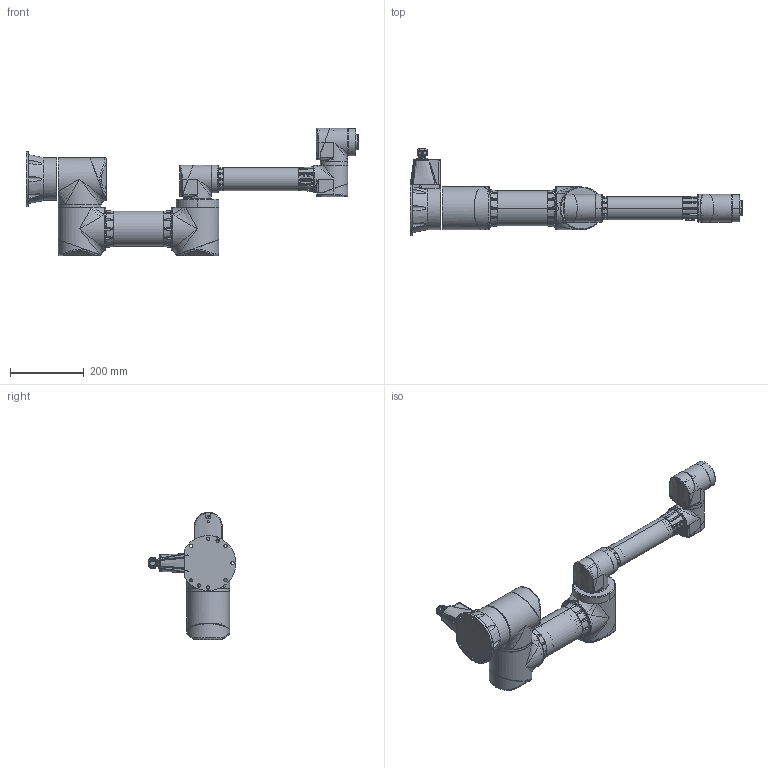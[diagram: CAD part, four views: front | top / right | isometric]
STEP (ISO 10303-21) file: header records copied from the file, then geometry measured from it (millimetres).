
FILE_DESCRIPTION((''),'2;1');
FILE_NAME('ZRA_0507N_ASM','2022-11-10T09:17:28',('ChoSeongHee'),(''),'CREO PARAMETRIC BY PTC INC, 2020354','CREO PARAMETRIC BY PTC INC, 2020354','');
FILE_SCHEMA(('CONFIG_CONTROL_DESIGN'));
Products named in the file (25): FLANGE_B; HOLDER_M; COVER_M; MODULE_M_ASM; RING_M; ARM1_PIPE; FLANGE_ARM1; ARM1_ASM; FLANGE_J3; HOLDER_S; COVER_S; MODULE_S_ASM; PIPE2; FLANGE_J4; FLANGE_J5; PLATE; PORT; ARM2_ASM; FLANGE_E; RING_S; COVER_J; CABLE; PLATE_J; COVER_J_ASM; ZRA_0507N_ASM
Assembly tree (29 placements, depth 3):
  ZRA_0507N_ASM
    FLANGE_B
    MODULE_M_ASM  x3
      HOLDER_M
      COVER_M
    RING_M
    ARM1_ASM
      ARM1_PIPE
      FLANGE_ARM1  x2
    FLANGE_J3
    MODULE_S_ASM  x3
      HOLDER_S
      COVER_S
    ARM2_ASM
      PIPE2
      FLANGE_J4
      FLANGE_J5
      PLATE
      PORT
    FLANGE_E
    RING_S
    COVER_J_ASM
      COVER_J
      CABLE
      PLATE_J
Bounding box: 900.1 x 237.3 x 344.89 mm (x, y, z)
Volume: 11446046.8 mm3; surface area: 899207.4 mm2
Topology: 28 solids, 212 shells, 3861 faces, 10478 edges, 6914 vertices
Faces by surface type: cylinder 1409, plane 1297, bspline 650, torus 269, cone 210, sphere 18, extrusion 8
Entity records: 146255 total; most frequent: CARTESIAN_POINT 72340, ORIENTED_EDGE 16264, DIRECTION 13894, EDGE_CURVE 8266, VERTEX_POINT 5414, AXIS2_PLACEMENT_3D 5218, VECTOR 3458, LINE 3450
